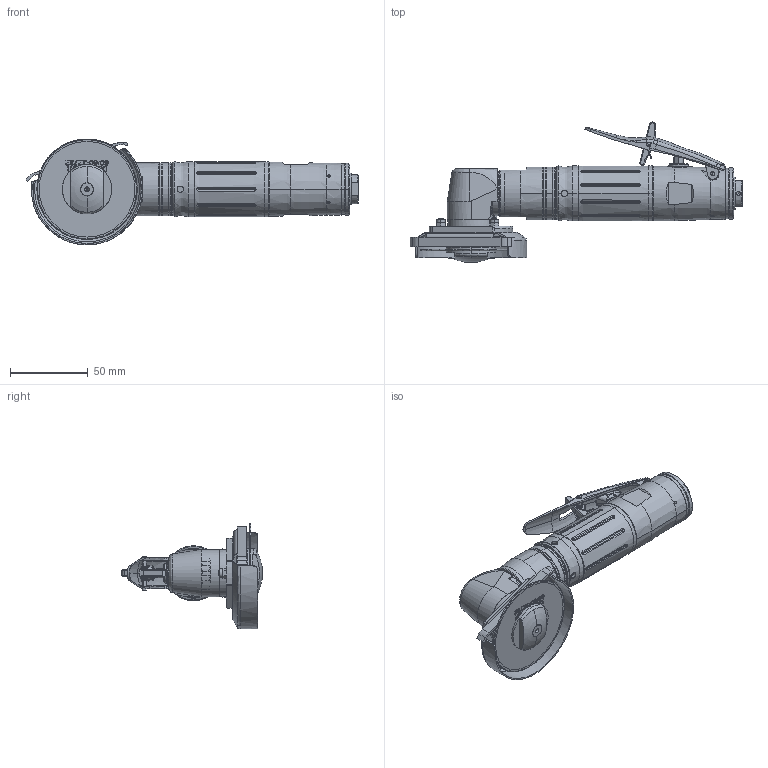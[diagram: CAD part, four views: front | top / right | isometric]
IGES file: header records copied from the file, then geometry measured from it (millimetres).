
Start section:  PTC IGES file: 6151705260.igs
Global section: file name: 6151705260.igs; native system: Creo Parametric by PTC Inc.; preprocessor: 2017020; author: greextsd; organization: Unknown; date: 20170515.170229; units: millimetre
Bounding box: 213.69 x 90.13 x 68.06 mm (x, y, z)
Volume: 114414.8 mm3; surface area: 85486 mm2
Topology: 4 solids, 5 shells, 2506 faces, 6702 edges, 4130 vertices
Faces by surface type: bspline 1309, revolution 1197
